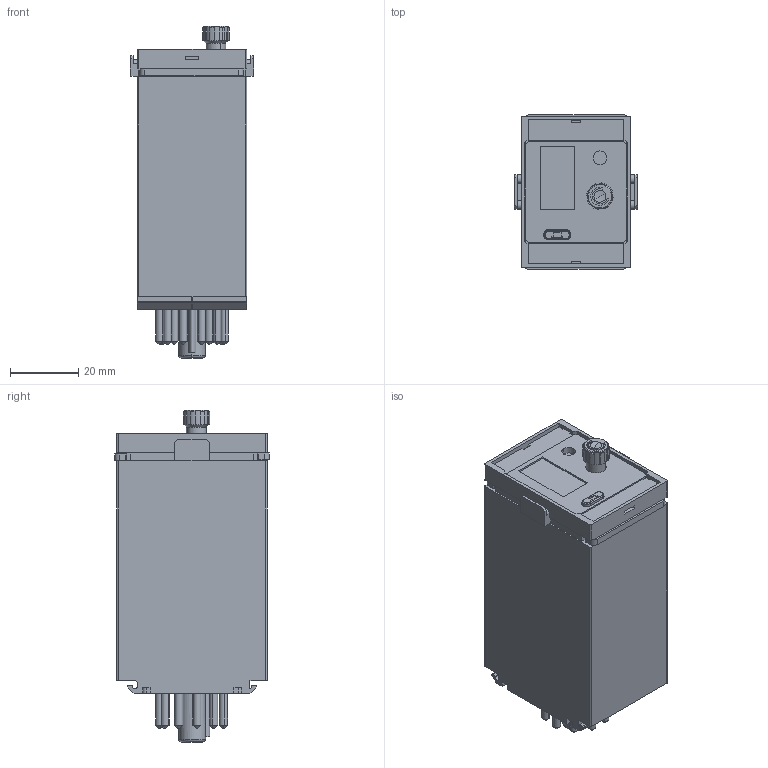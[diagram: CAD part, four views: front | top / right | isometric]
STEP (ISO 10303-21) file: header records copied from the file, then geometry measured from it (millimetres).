
FILE_DESCRIPTION (( 'STEP AP214' ), '1' );
FILE_NAME ('C56.STEP', '2024-04-11T09:18:26', ( '' ), ( '' ), 'SwSTEP 2.0', 'SolidWorks 2022', '' );
FILE_SCHEMA (( 'AUTOMOTIVE_DESIGN' ));
Length unit declared in the file: millimetre
Products named in the file (1): C56
Bounding box: 36 x 45.3 x 97.07 mm (x, y, z)
Volume: 100180.9 mm3; surface area: 21841.8 mm2
Topology: 1 solids, 8 shells, 691 faces, 1882 edges, 1211 vertices
Faces by surface type: plane 480, cylinder 144, cone 42, bspline 13, torus 9, sphere 3
Entity records: 26816 total; most frequent: CARTESIAN_POINT 4635, ORIENTED_EDGE 3734, DIRECTION 3528, EDGE_CURVE 1867, VECTOR 1416, LINE 1416, VERTEX_POINT 1209, AXIS2_PLACEMENT_3D 1056
